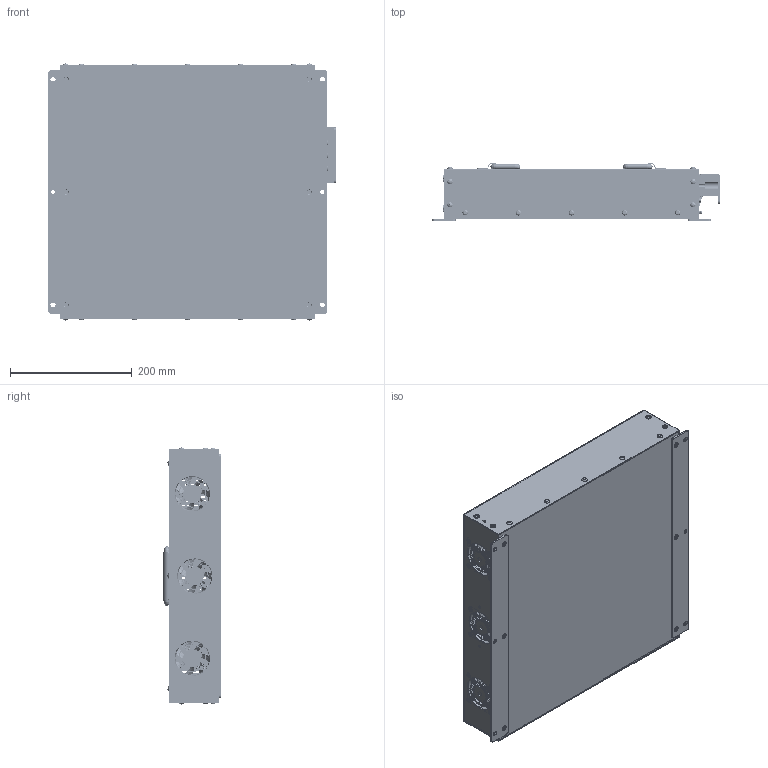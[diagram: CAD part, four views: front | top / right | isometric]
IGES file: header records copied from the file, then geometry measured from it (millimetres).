
Global section: file name: OLED_VW3COM_Handle2_2026.06.08_단순화_2; native system: Autodesk Inventor 2026; preprocessor: unknown; author: Administrator; date: 20260608.151629; units: millimetre
Bounding box: 471.28 x 95.23 x 421.84 mm (x, y, z)
Volume: 951193.3 mm3; surface area: 1177284.4 mm2
Topology: 14 solids, 14 shells, 6352 faces, 17373 edges, 11550 vertices
Faces by surface type: bspline 6352
